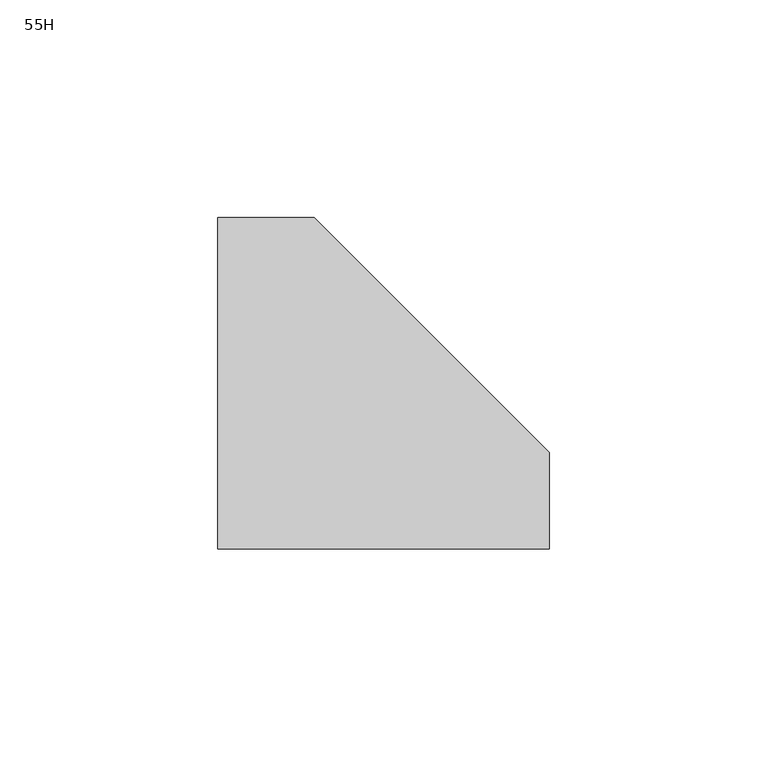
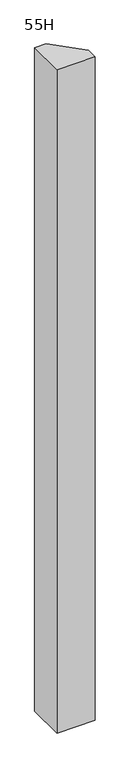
"""IFC4 building model written with IfcOpenShell, lengths in millimetres: furniture geometry, Steelcase - Montage - Junction - Y - Same-Height : 55H."""

from ifc_helpers import new_model, si_unit, frame, origin, place, context, project, spatial, polyline, outline, extrude, source, transform, mapped, element, save


def furniture_55h_9c691605(model_context):
    return source(origin(), model_context, "Body", "SweptSolid", [
        extrude(outline(polyline([(457.2, -38.1000015), (457.2, 38.1000015), (479.424997, 38.1000015), (533.4, -15.8750015), (533.4, -38.1000015), (457.2, -38.1000015)])), frame((0.0, 0.0, 3.9624), z_axis=(0.0, 0.0, 1.0), x_axis=(1.0, 0.0, 0.0)), (0.0, 0.0, 1.0), 1394.6251),
    ])


if __name__ == "__main__":
    model = new_model("IFC4")
    model_context = context("Model", 3, world=origin())
    ifc_project = project(units=[si_unit("LENGTHUNIT", "METRE", prefix="MILLI")], contexts=[model_context])
    site = spatial("IfcSite", under=ifc_project)
    building = spatial("IfcBuilding", under=site)
    placement = place(None, origin())
    furniture_55h_shape = furniture_55h_9c691605(model_context)
    element("IfcFurniture", 1, ObjectType="Steelcase - Montage - Junction - Y - Same-Height : 55H", at=placement, inside=building, context=model_context, shape_type="MappedRepresentation", body=[
        mapped(furniture_55h_shape, transform((0.0, 0.0, 0.0), x_axis=(1.0, 0.0, 0.0), y_axis=(0.0, 1.0, 0.0), z_axis=(0.0, 0.0, 1.0))),
    ])
    save(model, "model.ifc")
